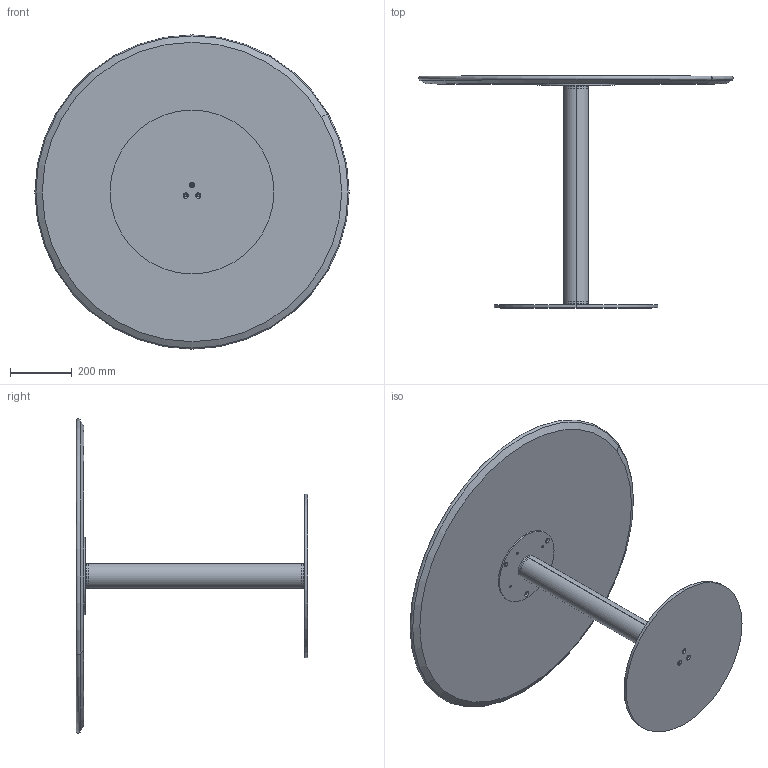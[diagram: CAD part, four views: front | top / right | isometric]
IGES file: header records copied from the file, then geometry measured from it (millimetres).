
Start section: SolidWorks IGES file using analytic representation for surfaces
Global section: file name: Y:\eforma\TECNICO\SOLIDWORKS\E-FORMA\5-TAVOLINI BISTRO\CILINDRO BISTRÒ\02 parts\CB30A.IGS; native system: SolidWorks 2022; preprocessor: SolidWorks 2022; author: eforma.tech; date: 240808.103404; units: millimetre
Bounding box: 1016.79 x 750 x 1016.79 mm (x, y, z)
Volume: 25701499.9 mm3; surface area: 4211519.2 mm2
Topology: 7 solids, 7 shells, 107 faces, 248 edges, 156 vertices
Faces by surface type: revolution 92, plane 15
